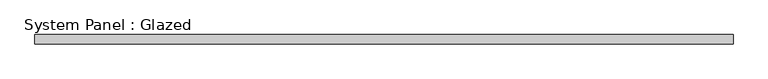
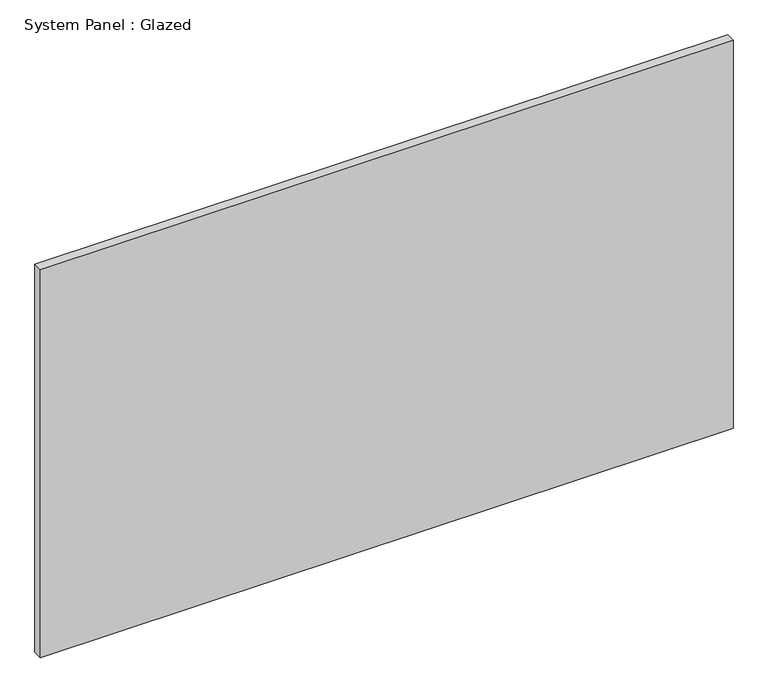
"""IFC4 building model written with IfcOpenShell, lengths in millimetres: plate geometry, System Panel : Glazed."""

from ifc_helpers import new_model, si_unit, origin, origin_with_axes, place, context, project, spatial, polyline, outline, extrude, source, transform, mapped, element, save


def system_panel_glazed_e7f7cd54(model_context):
    return source(origin(), model_context, "Body", "SweptSolid", [
        extrude(outline(polyline([(915.0, 24.5), (-915.0, 24.5), (-915.0, 49.5), (915.0, 49.5), (915.0, 24.5)])), origin_with_axes(), (0.0, 0.0, 1.0), 1083.7524816),
    ])


if __name__ == "__main__":
    model = new_model("IFC4")
    model_context = context("Model", 3, world=origin())
    ifc_project = project(units=[si_unit("LENGTHUNIT", "METRE", prefix="MILLI")], contexts=[model_context])
    site = spatial("IfcSite", under=ifc_project)
    building = spatial("IfcBuilding", under=site)
    placement = place(None, origin())
    system_panel_glazed_shape = system_panel_glazed_e7f7cd54(model_context)
    element("IfcPlate", 1, ObjectType="System Panel : Glazed", at=placement, inside=building, context=model_context, shape_type="MappedRepresentation", body=[
        mapped(system_panel_glazed_shape, transform((0.0, 0.0, 0.0), x_axis=(1.0, 0.0, 0.0), y_axis=(0.0, 1.0, 0.0), z_axis=(0.0, 0.0, 1.0))),
    ])
    save(model, "model.ifc")
